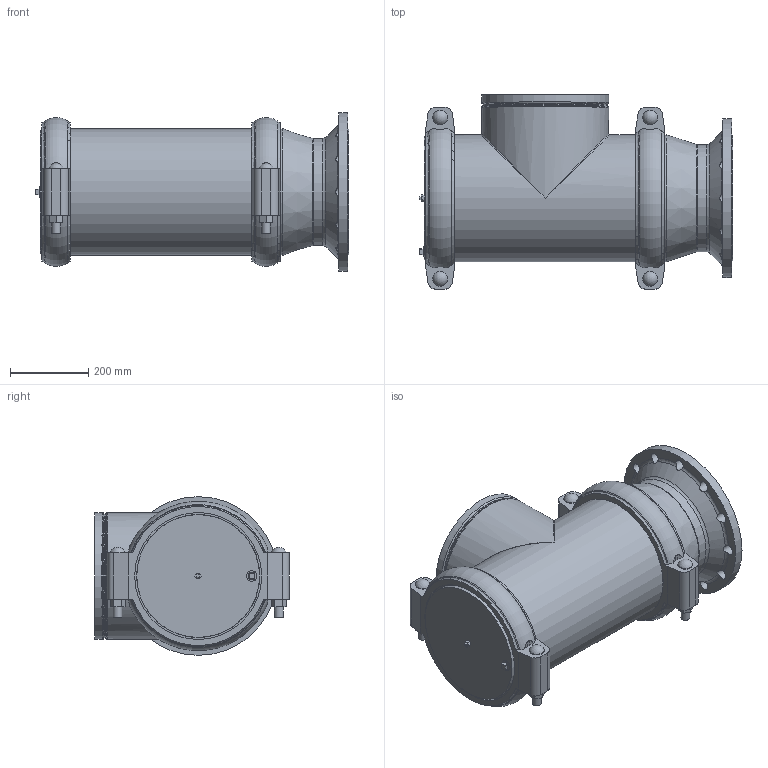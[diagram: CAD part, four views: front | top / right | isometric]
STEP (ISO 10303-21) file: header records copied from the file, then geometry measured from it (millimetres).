
FILE_DESCRIPTION(/* description */ ('VIC STRENGTHIN SUCTION DIFFUSER SERIES E431','CAx-IF Rec.Pracs.---Representation and Presentation of Product Manufacturing Information (PMI)---4.0---2014-10-13'),/* implementation_level */ '2;1');
FILE_NAME(/* name */ 'C:\Users\Vjadhav\AppData\Roaming\Autodesk\ApplicationPlugins\Back Up\Victaulic_SS-StrengThin 100_Suction Diffuser_PN16_Series E431 (ST1xFLG)\Victaulic_SS-StrengThin 100_Suction Diffuser_PN16_12.0x10.0 (300x250).stp',/* time_stamp */ '2020-07-07T13:03:10+06:00',/* author */ ('VJadhav'),/* organization */ ('Victaulic'),/* preprocessor_version */ 'ST-DEVELOPER v17.2',/* originating_system */ 'Autodesk Inventor 2019',/* authorisation */ '');
FILE_SCHEMA (('AP242_MANAGED_MODEL_BASED_3D_ENGINEERING_MIM_LF { 1 0 10303 442 1 1 4 }'));
Length unit declared in the file: inch
Products named in the file (5): E431-12.0x10.0; E492-12.0; E431-12.0; E497-12.0; E431-12.0_1
Assembly tree (5 placements, depth 2):
  E431-12.0x10.0
    E492-12.0
    E497-12.0  x2
    E431-12.0
    E431-12.0_1
Bounding box: 800.1 x 495.3 x 404.88 mm (x, y, z)
Volume: 14027169.5 mm3; surface area: 2540272.3 mm2
Topology: 5 solids, 9 shells, 330 faces, 942 edges, 642 vertices
Faces by surface type: plane 118, cylinder 112, torus 74, cone 12, sphere 12, bspline 2
Full cylindrical faces by diameter (mm): 22.225 x8, 25.908 x12, 26.67 x1, 37.694 x4, 254 x1, 260.35 x1, 260.604 x1, 273.05 x1, 309.982 x3, 311.15 x2, 313.817 x1, 315.976 x3, 317.856 x5, 320.04 x1, 323.85 x11, 404.876 x1
Entity records: 9821 total; most frequent: CARTESIAN_POINT 2301, DIRECTION 1619, ORIENTED_EDGE 1470, EDGE_CURVE 735, AXIS2_PLACEMENT_3D 698, VERTEX_POINT 504, CIRCLE 428, EDGE_LOOP 295
